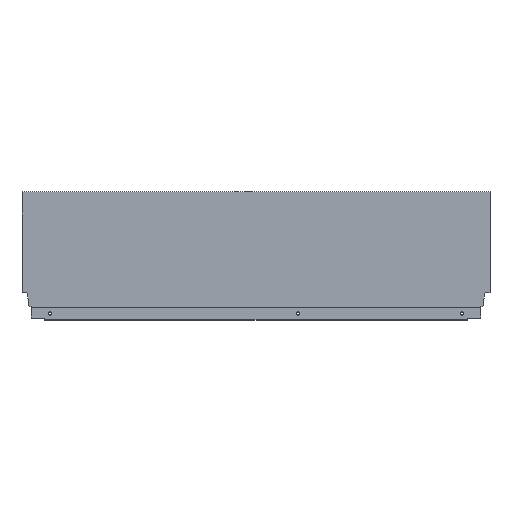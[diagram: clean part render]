
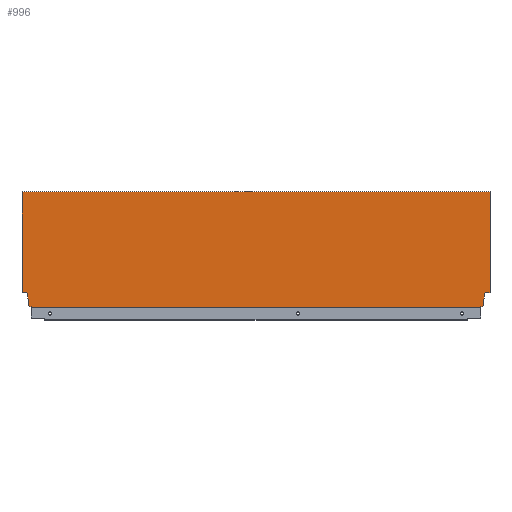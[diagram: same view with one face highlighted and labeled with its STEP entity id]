
A CAD part, top view. The second image highlights one B-rep face of the part: STEP entity #996.
In plain terms, the highlighted planar face has unit normal (0, 0, 1).
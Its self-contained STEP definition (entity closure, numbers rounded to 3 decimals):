
#9 = DIRECTION ( 'NONE',  ( -0.174, 0.985, 0. ) ) ;
#10 = DIRECTION ( 'NONE',  ( 0., 1., 0. ) ) ;
#57 = CARTESIAN_POINT ( 'NONE',  ( -651.996, 1.146, 7.5 ) ) ;
#70 = CARTESIAN_POINT ( 'NONE',  ( -8.9, 10.765, 7.5 ) ) ;
#80 = DIRECTION ( 'NONE',  ( -1., 0., 0. ) ) ;
#81 = DIRECTION ( 'NONE',  ( 1., 0., 0. ) ) ;
#82 = CARTESIAN_POINT ( 'NONE',  ( -665., 0., 7.5 ) ) ;
#83 = CARTESIAN_POINT ( 'NONE',  ( 0., 0., 7.5 ) ) ;
#84 = CARTESIAN_POINT ( 'NONE',  ( -8.9, 2.64, 7.5 ) ) ;
#87 = DIRECTION ( 'NONE',  ( 0., -1., 0. ) ) ;
#88 = CARTESIAN_POINT ( 'NONE',  ( -665., 0., 7.5 ) ) ;
#89 = DIRECTION ( 'NONE',  ( -0.94, -0.342, 0. ) ) ;
#90 = CARTESIAN_POINT ( 'NONE',  ( -657.94, 21.2, 7.5 ) ) ;
#91 = CARTESIAN_POINT ( 'NONE',  ( -7.06, 21.2, 7.5 ) ) ;
#92 = CARTESIAN_POINT ( 'NONE',  ( -670., 21.2, 7.5 ) ) ;
#93 = DIRECTION ( 'NONE',  ( 0., 1., 0. ) ) ;
#94 = DIRECTION ( 'NONE',  ( 0., -1., 0. ) ) ;
#95 = DIRECTION ( 'NONE',  ( -0.94, 0.342, 0. ) ) ;
#96 = CARTESIAN_POINT ( 'NONE',  ( -656.1, 2.64, 7.5 ) ) ;
#97 = CARTESIAN_POINT ( 'NONE',  ( -656.1, 10.765, 7.5 ) ) ;
#98 = DIRECTION ( 'NONE',  ( -0.174, -0.985, 0. ) ) ;
#99 = DIRECTION ( 'NONE',  ( 0., -1., 0. ) ) ;
#120 = LINE ( 'NONE', #88, #256 ) ;
#121 = VECTOR ( 'NONE', #89, 1000. ) ;
#122 = LINE ( 'NONE', #84, #121 ) ;
#123 = VECTOR ( 'NONE', #94, 1000. ) ;
#124 = LINE ( 'NONE', #70, #123 ) ;
#125 = VECTOR ( 'NONE', #99, 1000. ) ;
#126 = LINE ( 'NONE', #83, #125 ) ;
#127 = VECTOR ( 'NONE', #98, 1000. ) ;
#128 = LINE ( 'NONE', #91, #127 ) ;
#131 = VECTOR ( 'NONE', #342, 1000. ) ;
#132 = LINE ( 'NONE', #343, #131 ) ;
#133 = LINE ( 'NONE', #57, #139 ) ;
#135 = VECTOR ( 'NONE', #348, 1000. ) ;
#136 = LINE ( 'NONE', #349, #135 ) ;
#139 = VECTOR ( 'NONE', #93, 1000. ) ;
#141 = LINE ( 'NONE', #346, #255 ) ;
#255 = VECTOR ( 'NONE', #336, 1000. ) ;
#256 = VECTOR ( 'NONE', #87, 1000. ) ;
#257 = LINE ( 'NONE', #97, #262 ) ;
#258 = VECTOR ( 'NONE', #95, 1000. ) ;
#259 = LINE ( 'NONE', #96, #258 ) ;
#260 = VECTOR ( 'NONE', #9, 1000. ) ;
#261 = LINE ( 'NONE', #90, #260 ) ;
#262 = VECTOR ( 'NONE', #10, 1000. ) ;
#263 = LINE ( 'NONE', #82, #268 ) ;
#264 = VECTOR ( 'NONE', #80, 1000. ) ;
#265 = LINE ( 'NONE', #92, #264 ) ;
#268 = VECTOR ( 'NONE', #81, 1000. ) ;
#336 = DIRECTION ( 'NONE',  ( 0., -1., 0. ) ) ;
#342 = DIRECTION ( 'NONE',  ( -1., 0., 0. ) ) ;
#343 = CARTESIAN_POINT ( 'NONE',  ( 0., 21.2, 7.5 ) ) ;
#346 = CARTESIAN_POINT ( 'NONE',  ( -13.004, 1.146, 7.5 ) ) ;
#348 = DIRECTION ( 'NONE',  ( 1., 0., 0. ) ) ;
#349 = CARTESIAN_POINT ( 'NONE',  ( -665., 164.7, 7.5 ) ) ;
#443 = CARTESIAN_POINT ( 'NONE',  ( -8.9, 2.64, 7.5 ) ) ;
#446 = CARTESIAN_POINT ( 'NONE',  ( -651.996, 0., 7.5 ) ) ;
#447 = CARTESIAN_POINT ( 'NONE',  ( -656.1, 10.765, 7.5 ) ) ;
#451 = CARTESIAN_POINT ( 'NONE',  ( -665., 21.2, 7.5 ) ) ;
#471 = CARTESIAN_POINT ( 'NONE',  ( 0., 21.2, 7.5 ) ) ;
#474 = CARTESIAN_POINT ( 'NONE',  ( -665., 164.7, 7.5 ) ) ;
#481 = CARTESIAN_POINT ( 'NONE',  ( -651.996, 1.146, 7.5 ) ) ;
#482 = VERTEX_POINT ( 'NONE', #521 ) ;
#488 = CARTESIAN_POINT ( 'NONE',  ( -656.1, 2.64, 7.5 ) ) ;
#492 = VERTEX_POINT ( 'NONE', #519 ) ;
#501 = CARTESIAN_POINT ( 'NONE',  ( -13.004, 1.146, 7.5 ) ) ;
#505 = CARTESIAN_POINT ( 'NONE',  ( 0., 164.7, 7.5 ) ) ;
#510 = CARTESIAN_POINT ( 'NONE',  ( -13.004, 0., 7.5 ) ) ;
#511 = VERTEX_POINT ( 'NONE', #514 ) ;
#514 = CARTESIAN_POINT ( 'NONE',  ( -8.9, 10.765, 7.5 ) ) ;
#519 = CARTESIAN_POINT ( 'NONE',  ( -657.94, 21.2, 7.5 ) ) ;
#521 = CARTESIAN_POINT ( 'NONE',  ( -7.06, 21.2, 7.5 ) ) ;
#525 = VERTEX_POINT ( 'NONE', #510 ) ;
#546 = VERTEX_POINT ( 'NONE', #505 ) ;
#550 = VERTEX_POINT ( 'NONE', #501 ) ;
#563 = VERTEX_POINT ( 'NONE', #488 ) ;
#570 = VERTEX_POINT ( 'NONE', #481 ) ;
#576 = VERTEX_POINT ( 'NONE', #474 ) ;
#578 = VERTEX_POINT ( 'NONE', #471 ) ;
#594 = VERTEX_POINT ( 'NONE', #451 ) ;
#597 = VERTEX_POINT ( 'NONE', #447 ) ;
#598 = VERTEX_POINT ( 'NONE', #446 ) ;
#600 = VERTEX_POINT ( 'NONE', #443 ) ;
#650 = ORIENTED_EDGE ( 'NONE', *, *, #884, .T. ) ;
#660 = ORIENTED_EDGE ( 'NONE', *, *, #887, .F. ) ;
#661 = ORIENTED_EDGE ( 'NONE', *, *, #888, .F. ) ;
#662 = ORIENTED_EDGE ( 'NONE', *, *, #889, .F. ) ;
#721 = FACE_OUTER_BOUND ( 'NONE', #1045, .T. ) ;
#876 = EDGE_CURVE ( 'NONE', #576, #546, #136, .T. ) ;
#878 = EDGE_CURVE ( 'NONE', #578, #482, #132, .T. ) ;
#880 = EDGE_CURVE ( 'NONE', #482, #511, #128, .T. ) ;
#881 = EDGE_CURVE ( 'NONE', #546, #578, #126, .T. ) ;
#882 = EDGE_CURVE ( 'NONE', #511, #600, #124, .T. ) ;
#883 = EDGE_CURVE ( 'NONE', #600, #550, #122, .T. ) ;
#884 = EDGE_CURVE ( 'NONE', #576, #594, #120, .T. ) ;
#885 = EDGE_CURVE ( 'NONE', #550, #525, #141, .T. ) ;
#886 = EDGE_CURVE ( 'NONE', #570, #563, #259, .T. ) ;
#887 = EDGE_CURVE ( 'NONE', #563, #597, #257, .T. ) ;
#888 = EDGE_CURVE ( 'NONE', #597, #492, #261, .T. ) ;
#889 = EDGE_CURVE ( 'NONE', #492, #594, #265, .T. ) ;
#890 = EDGE_CURVE ( 'NONE', #598, #525, #263, .T. ) ;
#893 = EDGE_CURVE ( 'NONE', #598, #570, #133, .T. ) ;
#960 = AXIS2_PLACEMENT_3D ( 'NONE', #1136, #1129, #1128 ) ;
#996 = ADVANCED_FACE ( 'NONE', ( #721 ), #1139, .T. ) ;
#1045 = EDGE_LOOP ( 'NONE', ( #650, #662, #661, #660, #1345, #1344, #1343, #1342, #1341, #1340, #1540, #1539, #1538, #1537 ) ) ;
#1128 = DIRECTION ( 'NONE',  ( 1., 0., 0. ) ) ;
#1129 = DIRECTION ( 'NONE',  ( 0., 0., 1. ) ) ;
#1136 = CARTESIAN_POINT ( 'NONE',  ( -665., 0., 7.5 ) ) ;
#1139 = PLANE ( 'NONE',  #960 ) ;
#1340 = ORIENTED_EDGE ( 'NONE', *, *, #882, .F. ) ;
#1341 = ORIENTED_EDGE ( 'NONE', *, *, #883, .F. ) ;
#1342 = ORIENTED_EDGE ( 'NONE', *, *, #885, .F. ) ;
#1343 = ORIENTED_EDGE ( 'NONE', *, *, #890, .T. ) ;
#1344 = ORIENTED_EDGE ( 'NONE', *, *, #893, .F. ) ;
#1345 = ORIENTED_EDGE ( 'NONE', *, *, #886, .F. ) ;
#1537 = ORIENTED_EDGE ( 'NONE', *, *, #876, .F. ) ;
#1538 = ORIENTED_EDGE ( 'NONE', *, *, #881, .F. ) ;
#1539 = ORIENTED_EDGE ( 'NONE', *, *, #878, .F. ) ;
#1540 = ORIENTED_EDGE ( 'NONE', *, *, #880, .F. ) ;
